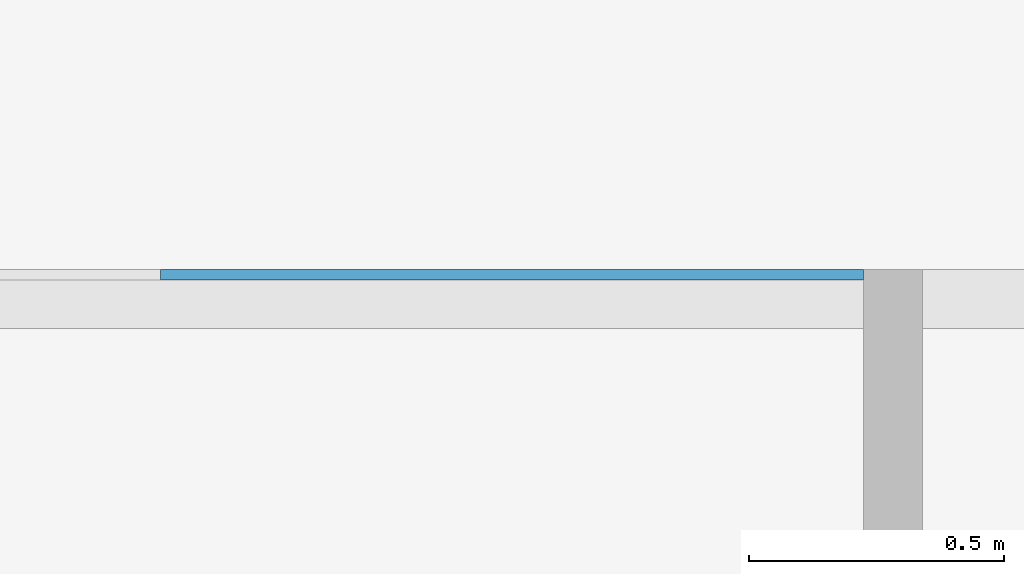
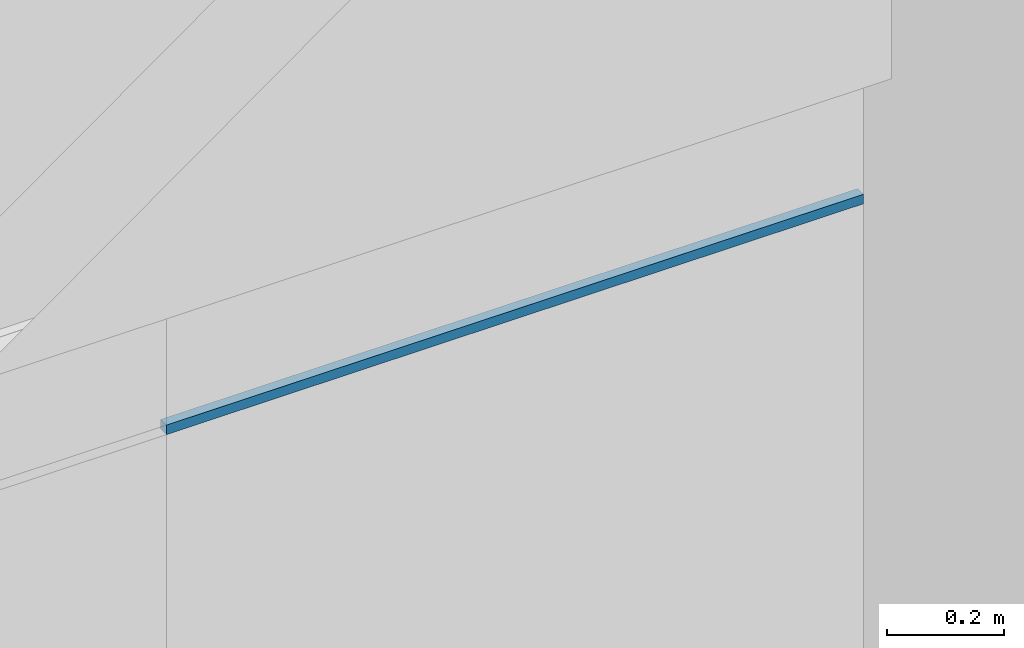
# One storey, part 4 of 46: 1 member, 1 element without a shape of its own.
"""IFC2X3 building model written with IfcOpenShell, lengths in millimetres."""

from ifc_helpers import new_model, entity, si_unit, converted_unit, derived_unit, direction, frame, origin, origin_2d_with_axis, place, context, subcontext, project, spatial, rectangle, extrude, source, transform, mapped, material, type_object, type_shapes, element, aggregate, save


model = new_model("IFC2X3")

# Units and contexts
model_context = context("Model", 3, precision=0.01, world=origin(), true_north=direction((6.12303176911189e-17, 1.0)))
body_context = subcontext(model_context, "Body", "Model", "MODEL_VIEW")
ifc_project = project(units=[si_unit("LENGTHUNIT", "METRE", prefix="MILLI"), si_unit("AREAUNIT", "SQUARE_METRE"), si_unit("VOLUMEUNIT", "CUBIC_METRE"), converted_unit("PLANEANGLEUNIT", "DEGREE", entity("IfcRatioMeasure", 0.0174532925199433), si_unit("PLANEANGLEUNIT", "RADIAN"), dimensions=[0, 0, 0, 0, 0, 0, 0]), si_unit("MASSUNIT", "GRAM", prefix="KILO"), derived_unit("MASSDENSITYUNIT", [(si_unit("MASSUNIT", "GRAM", prefix="KILO"), 1), (si_unit("LENGTHUNIT", "METRE"), -3)]), si_unit("TIMEUNIT", "SECOND"), si_unit("FREQUENCYUNIT", "HERTZ"), si_unit("THERMODYNAMICTEMPERATUREUNIT", "DEGREE_CELSIUS"), derived_unit("THERMALTRANSMITTANCEUNIT", [(si_unit("MASSUNIT", "GRAM", prefix="KILO"), 1), (si_unit("THERMODYNAMICTEMPERATUREUNIT", "KELVIN"), -1), (si_unit("TIMEUNIT", "SECOND"), -3)]), derived_unit("VOLUMETRICFLOWRATEUNIT", [(si_unit("LENGTHUNIT", "METRE"), 3), (si_unit("TIMEUNIT", "SECOND"), -1)]), si_unit("ELECTRICCURRENTUNIT", "AMPERE"), si_unit("ELECTRICVOLTAGEUNIT", "VOLT"), si_unit("POWERUNIT", "WATT"), si_unit("FORCEUNIT", "NEWTON", prefix="KILO"), si_unit("ILLUMINANCEUNIT", "LUX"), si_unit("LUMINOUSFLUXUNIT", "LUMEN"), si_unit("LUMINOUSINTENSITYUNIT", "CANDELA"), derived_unit("USERDEFINED", [(si_unit("MASSUNIT", "GRAM", prefix="KILO"), -1), (si_unit("LENGTHUNIT", "METRE"), -2), (si_unit("TIMEUNIT", "SECOND"), 3), (si_unit("LUMINOUSFLUXUNIT", "LUMEN"), 1)]), derived_unit("LINEARVELOCITYUNIT", [(si_unit("LENGTHUNIT", "METRE"), 1), (si_unit("TIMEUNIT", "SECOND"), -1)]), si_unit("PRESSUREUNIT", "PASCAL"), derived_unit("USERDEFINED", [(si_unit("LENGTHUNIT", "METRE"), -2), (si_unit("MASSUNIT", "GRAM", prefix="KILO"), 1), (si_unit("TIMEUNIT", "SECOND"), -2)])], contexts=[model_context])

# Site, building, storey
site_placement = place(None, frame((-151.875543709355, 2715.0, 0.0)))
site = spatial("IfcSite", under=ifc_project, at=site_placement, Name="Surface", CompositionType="ELEMENT")
building_placement = place(site_placement, origin())
building = spatial("IfcBuilding", under=site, at=building_placement, CompositionType="ELEMENT")
storey_placement = place(building_placement, frame((0.0, 0.0, 10060.0)))
storey = spatial("IfcBuildingStorey", under=building, at=storey_placement, Name="4 korrus", CompositionType="ELEMENT", Elevation=10060.0000000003)

# Curtain wall, member
curtain_wall_type = type_object("IfcCurtainWallType", Name="Curtain Wall:Klaassein KLS-27", PredefinedType="NOTDEFINED")
curtain_wall_placement = place(storey_placement, frame((0.0, 0.0, -10060.0)))
curtain_wall = element("IfcCurtainWall", 1, at=curtain_wall_placement, inside=storey, type_object=curtain_wall_type, Name="Curtain Wall:Klaassein KLS-27", ObjectType="Curtain Wall:Klaassein KLS-27")
ifc_material = material(Name="__Uks_hele tamm")
member_type = type_object("IfcMemberType", Name="20 x 20mm", PredefinedType="MEMBER")
shared_shape = source(origin(), body_context, "Body", "SweptSolid", [
    extrude(rectangle(XDim=20.0, YDim=20.0, at=origin_2d_with_axis()), frame((0.0, 0.0, -1379.99956818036), z_axis=(0.0, 0.0, 1.0), x_axis=(0.0, -1.0, 0.0)), (0.0, 0.0, 1.0), 1379.99956818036),
])
type_shapes(member_type, [shared_shape])
member_placement = place(storey_placement, frame((19999.5642948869, 4355.04493399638, 2090.0), z_axis=(1.0, 0.0, 0.0), x_axis=(0.0, 0.0, 1.0)))
member = element("IfcMember", 2, at=member_placement, type_object=member_type, material=ifc_material, Name="Rectangular Mullion:20 x 20mm", ObjectType="20 x 20mm", context=body_context, shape_type="MappedRepresentation", body=[
    mapped(shared_shape, transform((0.0, 0.0, 0.0), scale=1.0)),
])
aggregate(curtain_wall, [member])

save(model, "model.ifc")
